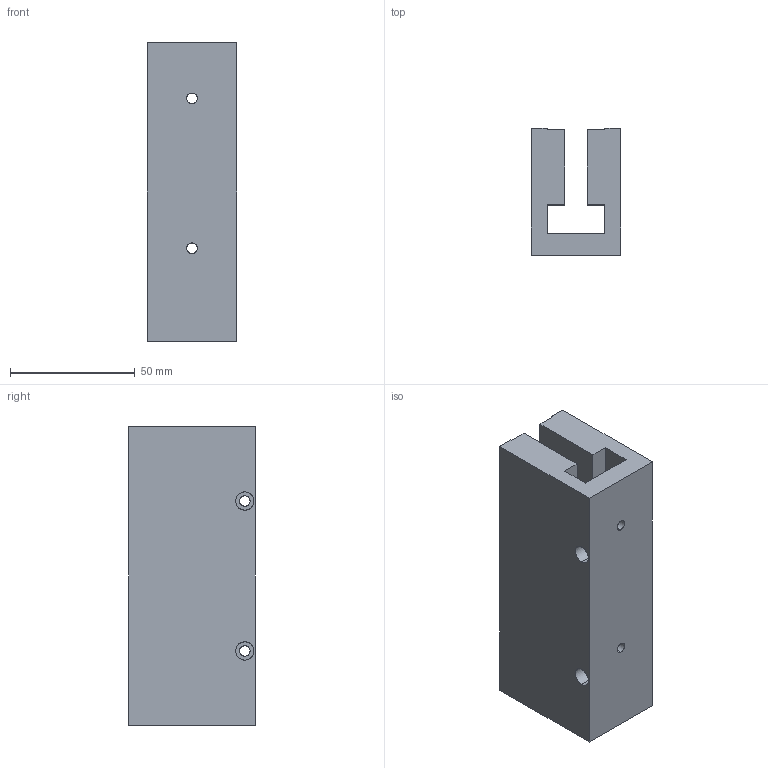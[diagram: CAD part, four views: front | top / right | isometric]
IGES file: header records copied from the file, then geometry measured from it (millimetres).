
Start section: SolidWorks IGES file using analytic representation for surfaces
Bounding box: 35.7 x 50.8 x 119.5 mm (x, y, z)
Surface area: 37953.5 mm2 (no closed solid volume)
Topology: 0 solids, 0 shells, 38 faces, 672 edges, 672 vertices
Faces by surface type: bspline 22, revolution 16
